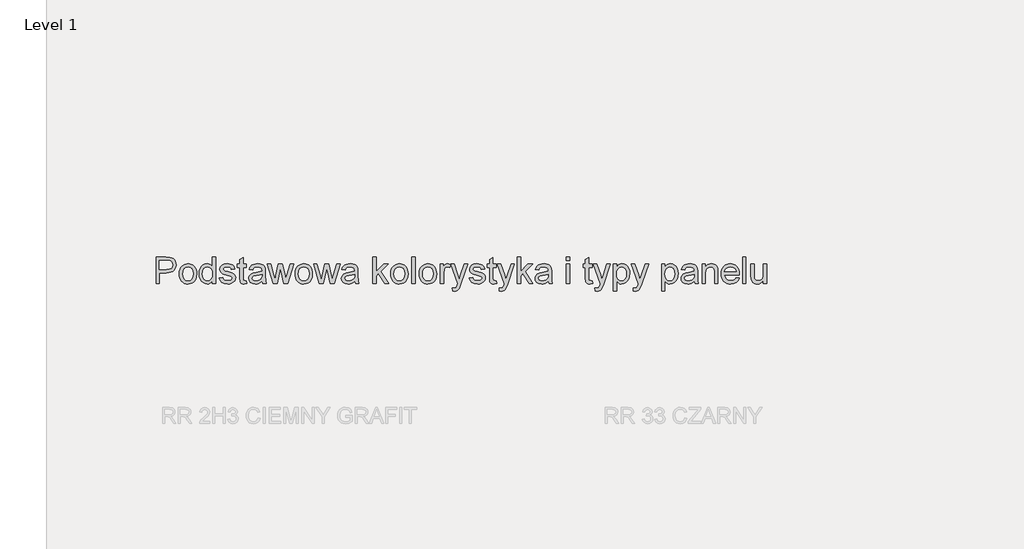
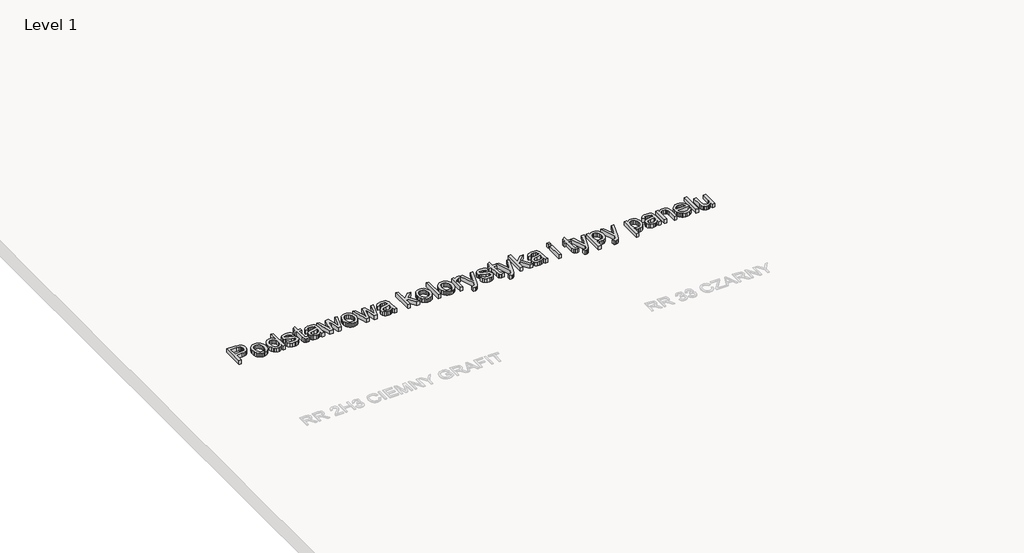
# One storey, part 7 of 9: 1 proxy.
"""IFC4 building model written with IfcOpenShell, lengths in millimetres."""

from ifc_helpers import new_model, si_unit, frame, origin, place, context, project, spatial, polyline, outline, extrude, element, save

model = new_model("IFC4")

# Units and contexts
model_context = context("Model", 3, world=origin())
ifc_project = project(units=[si_unit("LENGTHUNIT", "METRE", prefix="MILLI")], contexts=[model_context])

# Site, building, storey
site = spatial("IfcSite", under=ifc_project)
building = spatial("IfcBuilding", under=site)
storey = spatial("IfcBuildingStorey", under=building, Name="Level 1", Elevation=0.0)

# Proxy
placement = place(None, origin())
element("IfcBuildingElementProxy", 1, Name="250", ObjectType="250", at=placement, inside=storey, context=model_context, shape_type="SweptSolid", body=[
    extrude(outline(polyline([(-8797.1954693, 2793.1104745), (-8797.1954693, 3044.2512499), (-8704.1213245, 3044.2512499), (-8666.597361, 3041.8600169), (-8649.8663944, 3037.3917835), (-8636.0938123, 3030.1184499), (-8625.0037029, 3019.7104551), (-8616.320155, 3005.8382382), (-8610.7099546, 2989.4751536), (-8608.8398878, 2971.5945558), (-8613.890601, 2941.9953836), (-8629.0427407, 2917.3319616), (-8641.1770984, 2907.6214097), (-8657.3773185, 2900.6853013), (-8677.6434011, 2896.5236362), (-8701.9753462, 2895.1364145), (-8765.8028724, 2895.1364145), (-8765.8028724, 2793.1104745), (-8797.1954693, 2793.1104745)]), holes=[polyline([(-8765.8028724, 2926.5290114), (-8700.1359362, 2926.5290114), (-8672.2995319, 2929.4107537), (-8653.9054322, 2938.0559806), (-8643.6507216, 2951.9281975), (-8640.2324847, 2970.4909099), (-8642.2481715, 2984.593053), (-8648.2952318, 2996.4879042), (-8657.6225732, 3005.4396994), (-8669.4791033, 3010.7126747), (-8700.8717002, 3012.858653), (-8765.8028724, 3012.858653), (-8765.8028724, 2926.5290114)])]), frame((0.0, 0.0, 600.0), z_axis=(0.0, 0.0, 1.0), x_axis=(1.0, 0.0, 0.0)), (0.0, 0.0, 1.0), 50.0),
    extrude(outline(polyline([(-8577.4472909, 2885.326228), (-8575.7496687, 2909.2117329), (-8570.6568024, 2929.7939641), (-8562.1686917, 2947.0729216), (-8550.2853369, 2961.0486053), (-8525.116077, 2976.3616934), (-8494.9804103, 2981.466056), (-8477.6612157, 2979.9121378), (-8462.0013222, 2975.2503832), (-8448.0007299, 2967.4807921), (-8435.6594385, 2956.6033645), (-8425.5867529, 2942.9859826), (-8418.3919774, 2926.9965281), (-8414.0751121, 2908.6350013), (-8412.636157, 2887.9014019), (-8415.1806741, 2856.1869083), (-8422.8142255, 2832.0446523), (-8435.3145492, 2813.9647851), (-8452.459383, 2800.4374576), (-8472.8231843, 2791.9991643), (-8494.9804103, 2789.1863999), (-8512.5525237, 2790.73457), (-8528.3580371, 2795.3790802), (-8542.3969506, 2803.1199305), (-8554.669264, 2813.9571209), (-8564.6346507, 2827.7067105), (-8571.7527841, 2844.1847582), (-8576.0236642, 2863.391264), (-8577.4472909, 2885.326228)]), holes=[polyline([(-8546.0546939, 2885.3875416), (-8542.4218592, 2856.9763217), (-8531.5233551, 2836.7351478), (-8515.1219495, 2824.6180346), (-8494.9804103, 2820.5789968), (-8474.9308415, 2824.6410272), (-8458.5600927, 2836.8271183), (-8447.6615886, 2857.3365395), (-8444.0287539, 2886.3685603), (-8447.6845813, 2913.9520457), (-8458.6520632, 2933.9173082), (-8475.0458047, 2946.0344214), (-8494.9804103, 2950.0734591), (-8515.1219495, 2946.0497498), (-8531.5233551, 2933.9786218), (-8542.4218592, 2913.7834331), (-8546.0546939, 2885.3875416)])]), frame((0.0, 0.0, 600.0), z_axis=(0.0, 0.0, 1.0), x_axis=(1.0, 0.0, 0.0)), (0.0, 0.0, 1.0), 50.0),
    extrude(outline(polyline([(-8263.5213216, 2793.1104745), (-8263.5213216, 2822.7249751), (-8272.9138088, 2808.0518485), (-8284.2913259, 2797.5710437), (-8297.653873, 2791.2825609), (-8313.00145, 2789.1863999), (-8333.2962734, 2792.2214264), (-8351.8743141, 2801.3265057), (-8367.6012694, 2815.8655088), (-8379.3428365, 2835.2023061), (-8386.6544911, 2858.5551486), (-8389.0917093, 2885.142287), (-8386.8460963, 2911.3998644), (-8380.1092573, 2935.1129247), (-8368.8888564, 2954.9325671), (-8353.192558, 2969.5098912), (-8334.2083142, 2978.4770148), (-8313.1240773, 2981.466056), (-8297.765004, 2979.3277419), (-8284.184027, 2972.9127997), (-8272.6723863, 2963.0796205), (-8263.5213216, 2950.6865958), (-8263.5213216, 3044.2512499), (-8232.1287247, 3044.2512499), (-8232.1287247, 2793.1104745), (-8263.5213216, 2793.1104745)]), holes=[polyline([(-8357.6991124, 2885.2649143), (-8354.1582482, 2856.8690228), (-8343.5356556, 2836.6738341), (-8328.0999402, 2824.6027061), (-8310.1197077, 2820.5789968), (-8292.1471394, 2824.4187651), (-8277.1022986, 2835.9380701), (-8266.9165659, 2855.3515096), (-8263.5213216, 2882.8736813), (-8266.9778795, 2912.9633629), (-8277.3475533, 2933.8253377), (-8292.7756045, 2946.0114288), (-8311.4072947, 2950.0734591), (-8329.5714682, 2946.1723771), (-8344.4553606, 2934.4691312), (-8354.3881744, 2914.365913), (-8357.6991124, 2885.2649143)])]), frame((0.0, 0.0, 600.0), z_axis=(0.0, 0.0, 1.0), x_axis=(1.0, 0.0, 0.0)), (0.0, 0.0, 1.0), 50.0),
    extrude(outline(polyline([(-8196.8120532, 2848.0475191), (-8165.4194563, 2851.9715937), (-8160.4683777, 2838.5439009), (-8150.8881174, 2828.6724007), (-8136.6173617, 2822.6023478), (-8117.5947969, 2820.5789968), (-8098.8021583, 2822.4337352), (-8085.5890633, 2827.9979504), (-8077.7715709, 2836.0606975), (-8075.1657401, 2845.4110315), (-8077.7868993, 2853.4124649), (-8085.650377, 2859.5131746), (-8117.9626789, 2868.4649699), (-8165.2355153, 2883.8240432), (-8177.1993443, 2891.5419009), (-8185.8675638, 2901.7582904), (-8191.1328749, 2913.8217542), (-8192.8879786, 2927.0808344), (-8187.2471213, 2950.471998), (-8171.8573912, 2968.3449316), (-8151.8997929, 2977.6339519), (-8124.8911231, 2981.466056), (-8104.458344, 2979.9255502), (-8086.6927093, 2975.3040326), (-8072.4066251, 2968.0536916), (-8062.4124976, 2958.6267155), (-8055.7906217, 2946.3256613), (-8051.6212924, 2930.453086), (-8083.0138893, 2926.5290114), (-8086.976285, 2936.4081758), (-8094.81677, 2943.850122), (-8106.6119865, 2948.5176249), (-8122.4385765, 2950.0734591), (-8140.4647942, 2948.5866027), (-8152.4822728, 2944.1260335), (-8159.2421044, 2937.6880986), (-8161.4953816, 2930.2691451), (-8157.755248, 2921.1334088), (-8146.0443378, 2914.2049646), (-8119.0050112, 2907.521775), (-8072.9277913, 2892.7451815), (-8060.7570286, 2885.6787816), (-8051.5293219, 2876.0065508), (-8045.7121879, 2863.6978323), (-8043.7731432, 2848.7219695), (-8046.049413, 2833.2402688), (-8052.8782226, 2818.6782732), (-8063.9989887, 2806.1779496), (-8079.1511284, 2796.881265), (-8097.4532576, 2791.1101162), (-8118.0239925, 2789.1863999), (-8149.6771725, 2792.8958767), (-8172.7770962, 2804.024307), (-8188.1974831, 2822.4490636), (-8196.8120532, 2848.0475191)])), frame((0.0, 0.0, 600.0), z_axis=(0.0, 0.0, 1.0), x_axis=(1.0, 0.0, 0.0)), (0.0, 0.0, 1.0), 50.0),
    extrude(outline(polyline([(-7941.7472032, 2819.2914098), (-7937.8231286, 2792.1907695), (-7961.3062626, 2789.1863999), (-7976.374096, 2790.4893153), (-7987.6098253, 2794.3980615), (-8000.7309497, 2808.071009), (-8004.532397, 2843.6942489), (-8004.532397, 2946.1493845), (-8028.0768447, 2946.1493845), (-8028.0768447, 2977.5419814), (-8004.532397, 2977.5419814), (-8004.532397, 3022.3622712), (-7973.1398001, 3040.8176846), (-7973.1398001, 2977.5419814), (-7941.7472032, 2977.5419814), (-7941.7472032, 2946.1493845), (-7973.1398001, 2946.1493845), (-7973.1398001, 2844.6139538), (-7971.4843311, 2828.4271461), (-7966.1193854, 2822.6943183), (-7955.4201507, 2820.5789968), (-7941.7472032, 2819.2914098)])), frame((0.0, 0.0, 600.0), z_axis=(0.0, 0.0, 1.0), x_axis=(1.0, 0.0, 0.0)), (0.0, 0.0, 1.0), 50.0),
    extrude(outline(polyline([(-7792.6323678, 2816.6549222), (-7807.6312233, 2803.7943808), (-7823.0746029, 2795.3790802), (-7839.3150602, 2790.73457), (-7856.7051486, 2789.1863999), (-7882.9397334, 2792.9112051), (-7902.2918592, 2804.0856207), (-7914.2250314, 2821.0541777), (-7918.2027555, 2842.1614072), (-7916.7005707, 2855.1752328), (-7912.1940162, 2866.9934419), (-7896.4057473, 2885.0196596), (-7874.4247981, 2895.3203555), (-7847.2628441, 2900.0415078), (-7792.8163088, 2910.832713), (-7792.6323678, 2917.8224709), (-7794.7936745, 2931.8326435), (-7801.2775947, 2940.9990366), (-7815.7782767, 2947.8048535), (-7835.9811296, 2950.0734591), (-7854.6817977, 2948.5636101), (-7867.7416085, 2944.034063), (-7876.6474185, 2935.6570834), (-7882.886084, 2922.6049368), (-7914.2786809, 2926.5290114), (-7908.8294288, 2943.6968379), (-7900.6977039, 2957.1858444), (-7889.1247495, 2967.5018686), (-7873.3518089, 2975.1507485), (-7854.0609968, 2979.8872292), (-7831.9344276, 2981.466056), (-7810.712235, 2980.0711701), (-7793.889298, 2975.8865125), (-7781.2050333, 2969.5941975), (-7772.3988581, 2961.8763398), (-7762.7726125, 2940.5698409), (-7761.2397709, 2913.1013186), (-7761.2397709, 2874.0445135), (-7759.6456156, 2819.5060077), (-7753.3916217, 2793.1104745), (-7784.7842186, 2793.1104745), (-7792.6323678, 2816.6549222)]), holes=[polyline([(-7792.6323678, 2879.4401161), (-7843.2774558, 2869.8138705), (-7870.2861256, 2864.7248362), (-7882.518202, 2856.4474914), (-7886.8101586, 2844.3686992), (-7884.4725751, 2835.0336935), (-7877.4598245, 2827.3848137), (-7865.9251911, 2822.280451), (-7850.0219591, 2820.5789968), (-7833.1607009, 2822.4567278), (-7818.2614801, 2828.0899209), (-7806.182688, 2836.3902584), (-7797.7827157, 2846.2694228), (-7794.0579105, 2856.4474914), (-7792.8163088, 2870.5496345), (-7792.6323678, 2879.4401161)])]), frame((0.0, 0.0, 600.0), z_axis=(0.0, 0.0, 1.0), x_axis=(1.0, 0.0, 0.0)), (0.0, 0.0, 1.0), 50.0),
    extrude(outline(polyline([(-7687.2341762, 2793.1104745), (-7743.5814351, 2977.5419814), (-7711.0238785, 2977.5419814), (-7679.1407723, 2869.9364978), (-7669.6371541, 2831.4928293), (-7661.8503185, 2868.5262835), (-7636.5277745, 2977.5419814), (-7599.2490657, 2977.5419814), (-7573.9265217, 2868.8328519), (-7566.9980774, 2835.2942766), (-7557.0652636, 2870.6722618), (-7525.1821573, 2977.5419814), (-7492.4406597, 2977.5419814), (-7548.9718597, 2793.1104745), (-7586.8637052, 2793.1104745), (-7611.0212895, 2901.2677811), (-7618.0110474, 2934.9902973), (-7649.097076, 2793.1104745), (-7687.2341762, 2793.1104745)])), frame((0.0, 0.0, 600.0), z_axis=(0.0, 0.0, 1.0), x_axis=(1.0, 0.0, 0.0)), (0.0, 0.0, 1.0), 50.0),
    extrude(outline(polyline([(-7478.7063986, 2885.326228), (-7477.0087765, 2909.2117329), (-7471.9159101, 2929.7939641), (-7463.4277995, 2947.0729216), (-7451.5444446, 2961.0486053), (-7426.3751848, 2976.3616934), (-7396.239518, 2981.466056), (-7378.9203235, 2979.9121378), (-7363.26043, 2975.2503832), (-7349.2598376, 2967.4807921), (-7336.9185463, 2956.6033645), (-7326.8458606, 2942.9859826), (-7319.6510851, 2926.9965281), (-7315.3342198, 2908.6350013), (-7313.8952648, 2887.9014019), (-7316.4397819, 2856.1869083), (-7324.0733333, 2832.0446523), (-7336.5736569, 2813.9647851), (-7353.7184907, 2800.4374576), (-7374.082292, 2791.9991643), (-7396.239518, 2789.1863999), (-7413.8116314, 2790.73457), (-7429.6171449, 2795.3790802), (-7443.6560583, 2803.1199305), (-7455.9283717, 2813.9571209), (-7465.8937585, 2827.7067105), (-7473.0118919, 2844.1847582), (-7477.2827719, 2863.391264), (-7478.7063986, 2885.326228)]), holes=[polyline([(-7447.3138017, 2885.3875416), (-7443.680967, 2856.9763217), (-7432.7824629, 2836.7351478), (-7416.3810572, 2824.6180346), (-7396.239518, 2820.5789968), (-7376.1899493, 2824.6410272), (-7359.8192005, 2836.8271183), (-7348.9206964, 2857.3365395), (-7345.2878617, 2886.3685603), (-7348.943689, 2913.9520457), (-7359.911171, 2933.9173082), (-7376.3049124, 2946.0344214), (-7396.239518, 2950.0734591), (-7416.3810572, 2946.0497498), (-7432.7824629, 2933.9786218), (-7443.680967, 2913.7834331), (-7447.3138017, 2885.3875416)])]), frame((0.0, 0.0, 600.0), z_axis=(0.0, 0.0, 1.0), x_axis=(1.0, 0.0, 0.0)), (0.0, 0.0, 1.0), 50.0),
    extrude(outline(polyline([(-7247.7378193, 2793.1104745), (-7304.0850782, 2977.5419814), (-7271.5275216, 2977.5419814), (-7239.6444154, 2869.9364978), (-7230.1407972, 2831.4928293), (-7222.3539616, 2868.5262835), (-7197.0314176, 2977.5419814), (-7159.7527088, 2977.5419814), (-7134.4301648, 2868.8328519), (-7127.5017205, 2835.2942766), (-7117.5689067, 2870.6722618), (-7085.6858004, 2977.5419814), (-7052.9443028, 2977.5419814), (-7109.4755028, 2793.1104745), (-7147.3673483, 2793.1104745), (-7171.5249326, 2901.2677811), (-7178.5146905, 2934.9902973), (-7209.6007191, 2793.1104745), (-7247.7378193, 2793.1104745)])), frame((0.0, 0.0, 600.0), z_axis=(0.0, 0.0, 1.0), x_axis=(1.0, 0.0, 0.0)), (0.0, 0.0, 1.0), 50.0),
    extrude(outline(polyline([(-6913.639654, 2816.6549222), (-6928.6385095, 2803.7943808), (-6944.0818891, 2795.3790802), (-6960.3223463, 2790.73457), (-6977.7124348, 2789.1863999), (-7003.9470196, 2792.9112051), (-7023.2991454, 2804.0856207), (-7035.2323176, 2821.0541777), (-7039.2100417, 2842.1614072), (-7037.7078569, 2855.1752328), (-7033.2013024, 2866.9934419), (-7017.4130335, 2885.0196596), (-6995.4320843, 2895.3203555), (-6968.2701303, 2900.0415078), (-6913.823595, 2910.832713), (-6913.639654, 2917.8224709), (-6915.8009607, 2931.8326435), (-6922.2848809, 2940.9990366), (-6936.7855629, 2947.8048535), (-6956.9884158, 2950.0734591), (-6975.6890839, 2948.5636101), (-6988.7488947, 2944.034063), (-6997.6547046, 2935.6570834), (-7003.8933702, 2922.6049368), (-7035.2859671, 2926.5290114), (-7029.836715, 2943.6968379), (-7021.7049901, 2957.1858444), (-7010.1320357, 2967.5018686), (-6994.3590951, 2975.1507485), (-6975.068283, 2979.8872292), (-6952.9417138, 2981.466056), (-6931.7195212, 2980.0711701), (-6914.8965842, 2975.8865125), (-6902.2123195, 2969.5941975), (-6893.4061443, 2961.8763398), (-6883.7798987, 2940.5698409), (-6882.2470571, 2913.1013186), (-6882.2470571, 2874.0445135), (-6880.6529018, 2819.5060077), (-6874.3989078, 2793.1104745), (-6905.7915048, 2793.1104745), (-6913.639654, 2816.6549222)]), holes=[polyline([(-6913.639654, 2879.4401161), (-6964.284742, 2869.8138705), (-6991.2934118, 2864.7248362), (-7003.5254882, 2856.4474914), (-7007.8174448, 2844.3686992), (-7005.4798613, 2835.0336935), (-6998.4671107, 2827.3848137), (-6986.9324773, 2822.280451), (-6971.0292452, 2820.5789968), (-6954.1679871, 2822.4567278), (-6939.2687663, 2828.0899209), (-6927.1899742, 2836.3902584), (-6918.7900019, 2846.2694228), (-6915.0651967, 2856.4474914), (-6913.823595, 2870.5496345), (-6913.639654, 2879.4401161)])]), frame((0.0, 0.0, 600.0), z_axis=(0.0, 0.0, 1.0), x_axis=(1.0, 0.0, 0.0)), (0.0, 0.0, 1.0), 50.0),
    extrude(outline(polyline([(-6740.9803709, 2793.1104745), (-6740.9803709, 3044.2512499), (-6709.587774, 3044.2512499), (-6709.587774, 2909.2998713), (-6639.1996856, 2977.5419814), (-6595.7896102, 2977.5419814), (-6667.0974036, 2908.44148), (-6591.8655356, 2793.1104745), (-6628.5311077, 2793.1104745), (-6689.5995189, 2886.613815), (-6709.587774, 2867.1773829), (-6709.587774, 2793.1104745), (-6740.9803709, 2793.1104745)])), frame((0.0, 0.0, 600.0), z_axis=(0.0, 0.0, 1.0), x_axis=(1.0, 0.0, 0.0)), (0.0, 0.0, 1.0), 50.0),
    extrude(outline(polyline([(-6572.2451625, 2885.326228), (-6570.5475404, 2909.2117329), (-6565.454674, 2929.7939641), (-6556.9665634, 2947.0729216), (-6545.0832085, 2961.0486053), (-6519.9139487, 2976.3616934), (-6489.7782819, 2981.466056), (-6472.4590873, 2979.9121378), (-6456.7991939, 2975.2503832), (-6442.7986015, 2967.4807921), (-6430.4573102, 2956.6033645), (-6420.3846245, 2942.9859826), (-6413.189849, 2926.9965281), (-6408.8729837, 2908.6350013), (-6407.4340286, 2887.9014019), (-6409.9785458, 2856.1869083), (-6417.6120972, 2832.0446523), (-6430.1124208, 2813.9647851), (-6447.2572546, 2800.4374576), (-6467.6210559, 2791.9991643), (-6489.7782819, 2789.1863999), (-6507.3503953, 2790.73457), (-6523.1559087, 2795.3790802), (-6537.1948222, 2803.1199305), (-6549.4671356, 2813.9571209), (-6559.4325224, 2827.7067105), (-6566.5506558, 2844.1847582), (-6570.8215358, 2863.391264), (-6572.2451625, 2885.326228)]), holes=[polyline([(-6540.8525656, 2885.3875416), (-6537.2197309, 2856.9763217), (-6526.3212267, 2836.7351478), (-6509.9198211, 2824.6180346), (-6489.7782819, 2820.5789968), (-6469.7287132, 2824.6410272), (-6453.3579644, 2836.8271183), (-6442.4594603, 2857.3365395), (-6438.8266256, 2886.3685603), (-6442.4824529, 2913.9520457), (-6453.4499349, 2933.9173082), (-6469.8436763, 2946.0344214), (-6489.7782819, 2950.0734591), (-6509.9198211, 2946.0497498), (-6526.3212267, 2933.9786218), (-6537.2197309, 2913.7834331), (-6540.8525656, 2885.3875416)])]), frame((0.0, 0.0, 600.0), z_axis=(0.0, 0.0, 1.0), x_axis=(1.0, 0.0, 0.0)), (0.0, 0.0, 1.0), 50.0),
    extrude(outline(polyline([(-6372.1173571, 2793.1104745), (-6372.1173571, 3044.2512499), (-6340.7247602, 3044.2512499), (-6340.7247602, 2793.1104745), (-6372.1173571, 2793.1104745)])), frame((0.0, 0.0, 600.0), z_axis=(0.0, 0.0, 1.0), x_axis=(1.0, 0.0, 0.0)), (0.0, 0.0, 1.0), 50.0),
    extrude(outline(polyline([(-6301.484014, 2885.326228), (-6299.7863919, 2909.2117329), (-6294.6935255, 2929.7939641), (-6286.2054149, 2947.0729216), (-6274.32206, 2961.0486053), (-6249.1528002, 2976.3616934), (-6219.0171334, 2981.466056), (-6201.6979389, 2979.9121378), (-6186.0380454, 2975.2503832), (-6172.037453, 2967.4807921), (-6159.6961617, 2956.6033645), (-6149.623476, 2942.9859826), (-6142.4287006, 2926.9965281), (-6138.1118353, 2908.6350013), (-6136.6728802, 2887.9014019), (-6139.2173973, 2856.1869083), (-6146.8509487, 2832.0446523), (-6159.3512723, 2813.9647851), (-6176.4961062, 2800.4374576), (-6196.8599074, 2791.9991643), (-6219.0171334, 2789.1863999), (-6236.5892469, 2790.73457), (-6252.3947603, 2795.3790802), (-6266.4336737, 2803.1199305), (-6278.7059872, 2813.9571209), (-6288.6713739, 2827.7067105), (-6295.7895073, 2844.1847582), (-6300.0603873, 2863.391264), (-6301.484014, 2885.326228)]), holes=[polyline([(-6270.0914171, 2885.3875416), (-6266.4585824, 2856.9763217), (-6255.5600783, 2836.7351478), (-6239.1586727, 2824.6180346), (-6219.0171334, 2820.5789968), (-6198.9675647, 2824.6410272), (-6182.5968159, 2836.8271183), (-6171.6983118, 2857.3365395), (-6168.0654771, 2886.3685603), (-6171.7213044, 2913.9520457), (-6182.6887864, 2933.9173082), (-6199.0825278, 2946.0344214), (-6219.0171334, 2950.0734591), (-6239.1586727, 2946.0497498), (-6255.5600783, 2933.9786218), (-6266.4585824, 2913.7834331), (-6270.0914171, 2885.3875416)])]), frame((0.0, 0.0, 600.0), z_axis=(0.0, 0.0, 1.0), x_axis=(1.0, 0.0, 0.0)), (0.0, 0.0, 1.0), 50.0),
    extrude(outline(polyline([(-6101.3562087, 2793.1104745), (-6101.3562087, 2977.5419814), (-6073.8876863, 2977.5419814), (-6073.8876863, 2950.2574001), (-6063.7402746, 2966.0763259), (-6054.3899406, 2975.3960031), (-6034.7695675, 2981.466056), (-6019.1345827, 2979.0441662), (-6003.2543433, 2971.7784968), (-6013.7389801, 2943.6355242), (-6035.8118998, 2950.0734591), (-6045.1852265, 2948.5252891), (-6053.5622061, 2943.8807789), (-6064.8745775, 2926.7129524), (-6069.9636117, 2890.0473802), (-6069.9636117, 2793.1104745), (-6101.3562087, 2793.1104745)])), frame((0.0, 0.0, 600.0), z_axis=(0.0, 0.0, 1.0), x_axis=(1.0, 0.0, 0.0)), (0.0, 0.0, 1.0), 50.0),
    extrude(outline(polyline([(-5983.6339702, 2722.4771314), (-5987.5580448, 2752.7047687), (-5971.6164917, 2749.9456537), (-5956.7172709, 2753.4098759), (-5947.5815347, 2763.0667782), (-5938.9976214, 2786.1820303), (-5936.5450748, 2793.7849248), (-6003.2543433, 2977.5419814), (-5970.2062774, 2977.5419814), (-5934.7669785, 2875.0868458), (-5922.4429317, 2834.129317), (-5910.1188848, 2870.3656935), (-5873.759881, 2977.5419814), (-5840.9570697, 2977.5419814), (-5905.1524779, 2788.6958906), (-5921.829795, 2747.7383618), (-5930.367723, 2734.6632225), (-5940.0399538, 2725.6041284), (-5951.2603546, 2720.3158247), (-5964.4427928, 2718.5530568), (-5983.6339702, 2722.4771314)])), frame((0.0, 0.0, 600.0), z_axis=(0.0, 0.0, 1.0), x_axis=(1.0, 0.0, 0.0)), (0.0, 0.0, 1.0), 50.0),
    extrude(outline(polyline([(-5826.6709856, 2848.0475191), (-5795.2783887, 2851.9715937), (-5790.3273101, 2838.5439009), (-5780.7470499, 2828.6724007), (-5766.4762941, 2822.6023478), (-5747.4537293, 2820.5789968), (-5728.6610907, 2822.4337352), (-5715.4479957, 2827.9979504), (-5707.6305033, 2836.0606975), (-5705.0246725, 2845.4110315), (-5707.6458317, 2853.4124649), (-5715.5093094, 2859.5131746), (-5747.8216113, 2868.4649699), (-5795.0944477, 2883.8240432), (-5807.0582767, 2891.5419009), (-5815.7264962, 2901.7582904), (-5820.9918073, 2913.8217542), (-5822.746911, 2927.0808344), (-5817.1060537, 2950.471998), (-5801.7163236, 2968.3449316), (-5781.7587253, 2977.6339519), (-5754.7500555, 2981.466056), (-5734.3172764, 2979.9255502), (-5716.5516417, 2975.3040326), (-5702.2655575, 2968.0536916), (-5692.27143, 2958.6267155), (-5685.6495541, 2946.3256613), (-5681.4802248, 2930.453086), (-5712.8728217, 2926.5290114), (-5716.8352174, 2936.4081758), (-5724.6757024, 2943.850122), (-5736.4709189, 2948.5176249), (-5752.2975089, 2950.0734591), (-5770.3237267, 2948.5866027), (-5782.3412052, 2944.1260335), (-5789.1010368, 2937.6880986), (-5791.354314, 2930.2691451), (-5787.6141804, 2921.1334088), (-5775.9032703, 2914.2049646), (-5748.8639436, 2907.521775), (-5702.7867237, 2892.7451815), (-5690.615961, 2885.6787816), (-5681.3882543, 2876.0065508), (-5675.5711203, 2863.6978323), (-5673.6320756, 2848.7219695), (-5675.9083454, 2833.2402688), (-5682.737155, 2818.6782732), (-5693.8579211, 2806.1779496), (-5709.0100608, 2796.881265), (-5727.3121901, 2791.1101162), (-5747.882925, 2789.1863999), (-5779.536105, 2792.8958767), (-5802.6360286, 2804.024307), (-5818.0564155, 2822.4490636), (-5826.6709856, 2848.0475191)])), frame((0.0, 0.0, 600.0), z_axis=(0.0, 0.0, 1.0), x_axis=(1.0, 0.0, 0.0)), (0.0, 0.0, 1.0), 50.0),
    extrude(outline(polyline([(-5571.6061356, 2819.2914098), (-5567.682061, 2792.1907695), (-5591.165195, 2789.1863999), (-5606.2330284, 2790.4893153), (-5617.4687577, 2794.3980615), (-5630.5898822, 2808.071009), (-5634.3913294, 2843.6942489), (-5634.3913294, 2946.1493845), (-5657.9357771, 2946.1493845), (-5657.9357771, 2977.5419814), (-5634.3913294, 2977.5419814), (-5634.3913294, 3022.3622712), (-5602.9987325, 3040.8176846), (-5602.9987325, 2977.5419814), (-5571.6061356, 2977.5419814), (-5571.6061356, 2946.1493845), (-5602.9987325, 2946.1493845), (-5602.9987325, 2844.6139538), (-5601.3432635, 2828.4271461), (-5595.9783178, 2822.6943183), (-5585.2790831, 2820.5789968), (-5571.6061356, 2819.2914098)])), frame((0.0, 0.0, 600.0), z_axis=(0.0, 0.0, 1.0), x_axis=(1.0, 0.0, 0.0)), (0.0, 0.0, 1.0), 50.0),
    extrude(outline(polyline([(-5540.2135387, 2722.4771314), (-5544.1376133, 2752.7047687), (-5528.1960602, 2749.9456537), (-5513.2968394, 2753.4098759), (-5504.1611031, 2763.0667782), (-5495.5771899, 2786.1820303), (-5493.1246433, 2793.7849248), (-5559.8339118, 2977.5419814), (-5526.7858459, 2977.5419814), (-5491.346547, 2875.0868458), (-5479.0225001, 2834.129317), (-5466.6984533, 2870.3656935), (-5430.3394494, 2977.5419814), (-5397.5366382, 2977.5419814), (-5461.7320464, 2788.6958906), (-5478.4093635, 2747.7383618), (-5486.9472915, 2734.6632225), (-5496.6195222, 2725.6041284), (-5507.8399231, 2720.3158247), (-5521.0223613, 2718.5530568), (-5540.2135387, 2722.4771314)])), frame((0.0, 0.0, 600.0), z_axis=(0.0, 0.0, 1.0), x_axis=(1.0, 0.0, 0.0)), (0.0, 0.0, 1.0), 50.0),
    extrude(outline(polyline([(-5371.4783302, 2793.1104745), (-5371.4783302, 3044.2512499), (-5340.0857333, 3044.2512499), (-5340.0857333, 2909.2998713), (-5269.6976449, 2977.5419814), (-5226.2875695, 2977.5419814), (-5297.5953629, 2908.44148), (-5222.3634948, 2793.1104745), (-5259.029067, 2793.1104745), (-5320.0974782, 2886.613815), (-5340.0857333, 2867.1773829), (-5340.0857333, 2793.1104745), (-5371.4783302, 2793.1104745)])), frame((0.0, 0.0, 600.0), z_axis=(0.0, 0.0, 1.0), x_axis=(1.0, 0.0, 0.0)), (0.0, 0.0, 1.0), 50.0),
    extrude(outline(polyline([(-5077.1727341, 2816.6549222), (-5092.1715896, 2803.7943808), (-5107.6149692, 2795.3790802), (-5123.8554264, 2790.73457), (-5141.2455149, 2789.1863999), (-5167.4800997, 2792.9112051), (-5186.8322255, 2804.0856207), (-5198.7653977, 2821.0541777), (-5202.7431218, 2842.1614072), (-5201.240937, 2855.1752328), (-5196.7343825, 2866.9934419), (-5180.9461136, 2885.0196596), (-5158.9651643, 2895.3203555), (-5131.8032104, 2900.0415078), (-5077.3566751, 2910.832713), (-5077.1727341, 2917.8224709), (-5079.3340408, 2931.8326435), (-5085.817961, 2940.9990366), (-5100.3186429, 2947.8048535), (-5120.5214958, 2950.0734591), (-5139.2221639, 2948.5636101), (-5152.2819748, 2944.034063), (-5161.1877847, 2935.6570834), (-5167.4264502, 2922.6049368), (-5198.8190472, 2926.5290114), (-5193.3697951, 2943.6968379), (-5185.2380702, 2957.1858444), (-5173.6651157, 2967.5018686), (-5157.8921752, 2975.1507485), (-5138.6013631, 2979.8872292), (-5116.4747939, 2981.466056), (-5095.2526013, 2980.0711701), (-5078.4296642, 2975.8865125), (-5065.7453996, 2969.5941975), (-5056.9392243, 2961.8763398), (-5047.3129788, 2940.5698409), (-5045.7801372, 2913.1013186), (-5045.7801372, 2874.0445135), (-5044.1859818, 2819.5060077), (-5037.9319879, 2793.1104745), (-5069.3245848, 2793.1104745), (-5077.1727341, 2816.6549222)]), holes=[polyline([(-5077.1727341, 2879.4401161), (-5127.8178221, 2869.8138705), (-5154.8264919, 2864.7248362), (-5167.0585682, 2856.4474914), (-5171.3505248, 2844.3686992), (-5169.0129413, 2835.0336935), (-5162.0001908, 2827.3848137), (-5150.4655574, 2822.280451), (-5134.5623253, 2820.5789968), (-5117.7010672, 2822.4567278), (-5102.8018464, 2828.0899209), (-5090.7230542, 2836.3902584), (-5082.323082, 2846.2694228), (-5078.5982768, 2856.4474914), (-5077.3566751, 2870.5496345), (-5077.1727341, 2879.4401161)])]), frame((0.0, 0.0, 600.0), z_axis=(0.0, 0.0, 1.0), x_axis=(1.0, 0.0, 0.0)), (0.0, 0.0, 1.0), 50.0),
    extrude(outline(polyline([(-4904.513451, 3012.858653), (-4904.513451, 3044.2512499), (-4873.1208541, 3044.2512499), (-4873.1208541, 3012.858653), (-4904.513451, 3012.858653)])), frame((0.0, 0.0, 600.0), z_axis=(0.0, 0.0, 1.0), x_axis=(1.0, 0.0, 0.0)), (0.0, 0.0, 1.0), 50.0),
    extrude(outline(polyline([(-4904.513451, 2793.1104745), (-4904.513451, 2977.5419814), (-4873.1208541, 2977.5419814), (-4873.1208541, 2793.1104745), (-4904.513451, 2793.1104745)])), frame((0.0, 0.0, 600.0), z_axis=(0.0, 0.0, 1.0), x_axis=(1.0, 0.0, 0.0)), (0.0, 0.0, 1.0), 50.0),
    extrude(outline(polyline([(-4661.2208249, 2819.2914098), (-4657.2967502, 2792.1907695), (-4680.7798843, 2789.1863999), (-4695.8477177, 2790.4893153), (-4707.0834469, 2794.3980615), (-4720.2045714, 2808.071009), (-4724.0060187, 2843.6942489), (-4724.0060187, 2946.1493845), (-4747.5504664, 2946.1493845), (-4747.5504664, 2977.5419814), (-4724.0060187, 2977.5419814), (-4724.0060187, 3022.3622712), (-4692.6134218, 3040.8176846), (-4692.6134218, 2977.5419814), (-4661.2208249, 2977.5419814), (-4661.2208249, 2946.1493845), (-4692.6134218, 2946.1493845), (-4692.6134218, 2844.6139538), (-4690.9579528, 2828.4271461), (-4685.593007, 2822.6943183), (-4674.8937724, 2820.5789968), (-4661.2208249, 2819.2914098)])), frame((0.0, 0.0, 600.0), z_axis=(0.0, 0.0, 1.0), x_axis=(1.0, 0.0, 0.0)), (0.0, 0.0, 1.0), 50.0),
    extrude(outline(polyline([(-4629.8282279, 2722.4771314), (-4633.7523026, 2752.7047687), (-4617.8107494, 2749.9456537), (-4602.9115286, 2753.4098759), (-4593.7757924, 2763.0667782), (-4585.1918792, 2786.1820303), (-4582.7393326, 2793.7849248), (-4649.448601, 2977.5419814), (-4616.4005351, 2977.5419814), (-4580.9612363, 2875.0868458), (-4568.6371894, 2834.129317), (-4556.3131426, 2870.3656935), (-4519.9541387, 2977.5419814), (-4487.1513275, 2977.5419814), (-4551.3467356, 2788.6958906), (-4568.0240528, 2747.7383618), (-4576.5619807, 2734.6632225), (-4586.2342115, 2725.6041284), (-4597.4546124, 2720.3158247), (-4610.6370505, 2718.5530568), (-4629.8282279, 2722.4771314)])), frame((0.0, 0.0, 600.0), z_axis=(0.0, 0.0, 1.0), x_axis=(1.0, 0.0, 0.0)), (0.0, 0.0, 1.0), 50.0),
    extrude(outline(polyline([(-4461.0930195, 2722.4771314), (-4461.0930195, 2977.5419814), (-4429.7004226, 2977.5419814), (-4429.7004226, 2946.7625212), (-4419.4610404, 2961.9453177), (-4407.9953849, 2972.7901723), (-4394.6290057, 2979.2970851), (-4378.6874526, 2981.466056), (-4357.4575958, 2978.4310296), (-4338.8948834, 2969.3259502), (-4323.7810648, 2954.7026409), (-4312.8978891, 2935.1129247), (-4306.3219984, 2911.9823442), (-4304.1300349, 2886.7364423), (-4306.6055741, 2859.8887208), (-4314.0321919, 2835.8767565), (-4326.1722978, 2815.9191582), (-4342.7883012, 2801.2345352), (-4362.140427, 2792.1984337), (-4382.4888999, 2789.1863999), (-4396.920604, 2791.2020867), (-4409.804138, 2797.249147), (-4429.7004226, 2817.6359409), (-4429.7004226, 2722.4771314), (-4461.0930195, 2722.4771314)]), holes=[polyline([(-4429.7004226, 2883.8547), (-4426.3051783, 2855.7117274), (-4416.1194456, 2836.0300406), (-4401.0899332, 2824.4417578), (-4383.1633502, 2820.5789968), (-4364.9455272, 2824.5797135), (-4349.5328045, 2836.5818636), (-4339.025175, 2856.9839859), (-4335.5226318, 2886.1846193), (-4338.9408687, 2914.1743078), (-4349.1955793, 2934.131906), (-4364.202099, 2946.0880708), (-4381.8757632, 2950.0734591), (-4399.6184053, 2945.835152), (-4415.1997406, 2933.1202305), (-4426.0752521, 2912.3272336), (-4429.7004226, 2883.8547)])]), frame((0.0, 0.0, 600.0), z_axis=(0.0, 0.0, 1.0), x_axis=(1.0, 0.0, 0.0)), (0.0, 0.0, 1.0), 50.0),
    extrude(outline(polyline([(-4268.8133633, 2722.4771314), (-4272.737438, 2752.7047687), (-4256.7958848, 2749.9456537), (-4241.896664, 2753.4098759), (-4232.7609278, 2763.0667782), (-4224.1770146, 2786.1820303), (-4221.724468, 2793.7849248), (-4288.4337364, 2977.5419814), (-4255.3856705, 2977.5419814), (-4219.9463717, 2875.0868458), (-4207.6223248, 2834.129317), (-4195.298278, 2870.3656935), (-4158.9392741, 2977.5419814), (-4126.1364629, 2977.5419814), (-4190.331871, 2788.6958906), (-4207.0091882, 2747.7383618), (-4215.5471161, 2734.6632225), (-4225.2193469, 2725.6041284), (-4236.4397478, 2720.3158247), (-4249.6221859, 2718.5530568), (-4268.8133633, 2722.4771314)])), frame((0.0, 0.0, 600.0), z_axis=(0.0, 0.0, 1.0), x_axis=(1.0, 0.0, 0.0)), (0.0, 0.0, 1.0), 50.0),
    extrude(outline(polyline([(-4001.9762895, 2722.4771314), (-4001.9762895, 2977.5419814), (-3970.5836926, 2977.5419814), (-3970.5836926, 2946.7625212), (-3960.3443104, 2961.9453177), (-3948.8786549, 2972.7901723), (-3935.5122757, 2979.2970851), (-3919.5707226, 2981.466056), (-3898.3408658, 2978.4310296), (-3879.7781534, 2969.3259502), (-3864.6643348, 2954.7026409), (-3853.7811591, 2935.1129247), (-3847.2052685, 2911.9823442), (-3845.0133049, 2886.7364423), (-3847.4888442, 2859.8887208), (-3854.9154619, 2835.8767565), (-3867.0555678, 2815.9191582), (-3883.6715712, 2801.2345352), (-3903.023697, 2792.1984337), (-3923.3721699, 2789.1863999), (-3937.803874, 2791.2020867), (-3950.687408, 2797.249147), (-3970.5836926, 2817.6359409), (-3970.5836926, 2722.4771314), (-4001.9762895, 2722.4771314)]), holes=[polyline([(-3970.5836926, 2883.8547), (-3967.1884483, 2855.7117274), (-3957.0027156, 2836.0300406), (-3941.9732033, 2824.4417578), (-3924.0466202, 2820.5789968), (-3905.8287972, 2824.5797135), (-3890.4160745, 2836.5818636), (-3879.908445, 2856.9839859), (-3876.4059018, 2886.1846193), (-3879.8241387, 2914.1743078), (-3890.0788493, 2934.131906), (-3905.085369, 2946.0880708), (-3922.7590332, 2950.0734591), (-3940.5016753, 2945.835152), (-3956.0830106, 2933.1202305), (-3966.9585221, 2912.3272336), (-3970.5836926, 2883.8547)])]), frame((0.0, 0.0, 600.0), z_axis=(0.0, 0.0, 1.0), x_axis=(1.0, 0.0, 0.0)), (0.0, 0.0, 1.0), 50.0),
    extrude(outline(polyline([(-3691.9743949, 2816.6549222), (-3706.9732504, 2803.7943808), (-3722.41663, 2795.3790802), (-3738.6570873, 2790.73457), (-3756.0471757, 2789.1863999), (-3782.2817605, 2792.9112051), (-3801.6338863, 2804.0856207), (-3813.5670585, 2821.0541777), (-3817.5447826, 2842.1614072), (-3816.0425978, 2855.1752328), (-3811.5360433, 2866.9934419), (-3795.7477744, 2885.0196596), (-3773.7668252, 2895.3203555), (-3746.6048712, 2900.0415078), (-3692.1583359, 2910.832713), (-3691.9743949, 2917.8224709), (-3694.1357016, 2931.8326435), (-3700.6196218, 2940.9990366), (-3715.1203038, 2947.8048535), (-3735.3231567, 2950.0734591), (-3754.0238248, 2948.5636101), (-3767.0836356, 2944.034063), (-3775.9894456, 2935.6570834), (-3782.2281111, 2922.6049368), (-3813.620708, 2926.5290114), (-3808.1714559, 2943.6968379), (-3800.039731, 2957.1858444), (-3788.4667766, 2967.5018686), (-3772.693836, 2975.1507485), (-3753.4030239, 2979.8872292), (-3731.2764547, 2981.466056), (-3710.0542621, 2980.0711701), (-3693.2313251, 2975.8865125), (-3680.5470604, 2969.5941975), (-3671.7408852, 2961.8763398), (-3662.1146396, 2940.5698409), (-3660.581798, 2913.1013186), (-3660.581798, 2874.0445135), (-3658.9876427, 2819.5060077), (-3652.7336488, 2793.1104745), (-3684.1262457, 2793.1104745), (-3691.9743949, 2816.6549222)]), holes=[polyline([(-3691.9743949, 2879.4401161), (-3742.6194829, 2869.8138705), (-3769.6281527, 2864.7248362), (-3781.8602291, 2856.4474914), (-3786.1521857, 2844.3686992), (-3783.8146022, 2835.0336935), (-3776.8018516, 2827.3848137), (-3765.2672182, 2822.280451), (-3749.3639862, 2820.5789968), (-3732.502728, 2822.4567278), (-3717.6035072, 2828.0899209), (-3705.5247151, 2836.3902584), (-3697.1247428, 2846.2694228), (-3693.3999376, 2856.4474914), (-3692.1583359, 2870.5496345), (-3691.9743949, 2879.4401161)])]), frame((0.0, 0.0, 600.0), z_axis=(0.0, 0.0, 1.0), x_axis=(1.0, 0.0, 0.0)), (0.0, 0.0, 1.0), 50.0),
    extrude(outline(polyline([(-3617.4169772, 2793.1104745), (-3617.4169772, 2977.5419814), (-3586.0243803, 2977.5419814), (-3586.0243803, 2951.7902418), (-3575.118212, 2964.7734105), (-3562.0200801, 2974.0471025), (-3546.7299847, 2979.6113177), (-3529.2479257, 2981.466056), (-3513.7738893, 2979.9715354), (-3499.6027683, 2975.4879736), (-3487.7845592, 2968.5748578), (-3479.3692585, 2959.7916752), (-3469.9576108, 2936.70708), (-3468.3021418, 2906.3568154), (-3468.3021418, 2793.1104745), (-3499.6947388, 2793.1104745), (-3499.6947388, 2902.1261724), (-3503.312245, 2929.9012631), (-3508.316973, 2938.1709437), (-3516.0961444, 2944.585886), (-3537.6478979, 2950.0734591), (-3556.0343335, 2946.9924474), (-3571.7076393, 2937.7494123), (-3582.4451951, 2919.8918071), (-3586.0243803, 2890.9670852), (-3586.0243803, 2793.1104745), (-3617.4169772, 2793.1104745)])), frame((0.0, 0.0, 600.0), z_axis=(0.0, 0.0, 1.0), x_axis=(1.0, 0.0, 0.0)), (0.0, 0.0, 1.0), 50.0),
    extrude(outline(polyline([(-3296.0107408, 2848.0475191), (-3265.2312805, 2844.1234445), (-3276.3213898, 2820.9315504), (-3294.0180466, 2803.5951114), (-3317.9227121, 2792.7885778), (-3347.6368474, 2789.1863999), (-3367.1154326, 2790.7403181), (-3384.4710322, 2795.4020728), (-3399.7036461, 2803.1716639), (-3412.8132742, 2814.0490914), (-3423.3553927, 2827.7316192), (-3430.8854772, 2843.9165109), (-3435.403528, 2862.6037666), (-3436.9095449, 2883.7933863), (-3435.3881996, 2905.7015256), (-3430.8241636, 2925.0114982), (-3423.2174369, 2941.7233043), (-3412.5680196, 2955.8369437), (-3399.4928803, 2967.0496804), (-3384.6089879, 2975.058778), (-3367.9163424, 2979.8642365), (-3349.4149437, 2981.466056), (-3331.5094372, 2979.8680686), (-3315.3168813, 2975.0741064), (-3300.8372759, 2967.0841693), (-3288.070621, 2955.8982574), (-3277.6492139, 2941.8152748), (-3270.2053516, 2925.1341255), (-3265.7390343, 2905.8548097), (-3264.2502618, 2883.9773273), (-3264.4342028, 2875.5160414), (-3405.516948, 2875.5160414), (-3400.0830244, 2852.017579), (-3387.4600734, 2834.7424536), (-3369.2422504, 2824.119861), (-3347.0237108, 2820.5789968), (-3330.3157368, 2822.2191374), (-3316.2442505, 2827.1395591), (-3304.8092518, 2835.6468302), (-3296.0107408, 2848.0475191)]), holes=[polyline([(-3405.516948, 2906.9086384), (-3295.6428588, 2906.9086384), (-3299.8888301, 2923.493985), (-3308.2121603, 2935.3581793), (-3326.5142895, 2946.3946392), (-3349.5375711, 2950.0734591), (-3370.69845, 2947.1380674), (-3388.1958374, 2938.3318921), (-3400.3589359, 2924.6052952), (-3405.516948, 2906.9086384)])]), frame((0.0, 0.0, 600.0), z_axis=(0.0, 0.0, 1.0), x_axis=(1.0, 0.0, 0.0)), (0.0, 0.0, 1.0), 50.0),
    extrude(outline(polyline([(-3232.8576649, 2793.1104745), (-3232.8576649, 3044.2512499), (-3201.465068, 3044.2512499), (-3201.465068, 2793.1104745), (-3232.8576649, 2793.1104745)])), frame((0.0, 0.0, 600.0), z_axis=(0.0, 0.0, 1.0), x_axis=(1.0, 0.0, 0.0)), (0.0, 0.0, 1.0), 50.0),
    extrude(outline(polyline([(-3036.6539342, 2793.1104745), (-3036.6539342, 2824.8096398), (-3048.0122908, 2809.2244723), (-3061.2407142, 2798.0922099), (-3076.3392044, 2791.4128524), (-3093.3077614, 2789.1863999), (-3108.5978568, 2790.7498984), (-3122.8302915, 2795.4403938), (-3134.771128, 2802.4914654), (-3143.1864286, 2811.1366923), (-3152.5367626, 2834.2519443), (-3154.3761726, 2863.4372493), (-3154.3761726, 2977.5419814), (-3122.9835757, 2977.5419814), (-3122.9835757, 2878.2138427), (-3121.0828521, 2846.2081092), (-3116.5073197, 2835.5318671), (-3108.6668347, 2827.4154706), (-3098.0825632, 2822.2881153), (-3085.2756712, 2820.5789968), (-3071.7330152, 2822.3264363), (-3059.064079, 2827.5687547), (-3048.6177632, 2835.823107), (-3041.7429684, 2846.606648), (-3037.9261927, 2861.3755772), (-3036.6539342, 2881.5860944), (-3036.6539342, 2977.5419814), (-3005.2613372, 2977.5419814), (-3005.2613372, 2793.1104745), (-3036.6539342, 2793.1104745)])), frame((0.0, 0.0, 600.0), z_axis=(0.0, 0.0, 1.0), x_axis=(1.0, 0.0, 0.0)), (0.0, 0.0, 1.0), 50.0),
])

save(model, "model.ifc")
